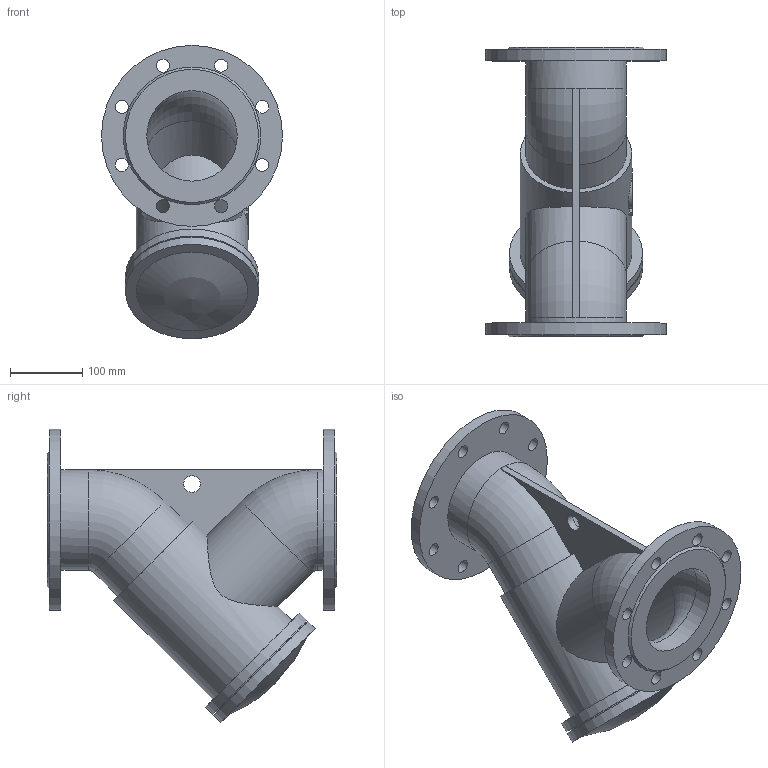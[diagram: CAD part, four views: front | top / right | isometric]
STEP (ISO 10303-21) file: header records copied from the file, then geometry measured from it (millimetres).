
FILE_DESCRIPTION(('STEP AP203'), '1');
FILE_NAME('Ôèëüòð ñåò÷àòûé ôëàíöåâûé 021Y.Z DN125 PN10_PN16', '', ('UNSPECIFIED'), ('UNSPECIFIED'), 'ASCON STEP Converter 1.6', 'ASCON Math Kernel', '');
FILE_SCHEMA(('CONFIG_CONTROL_DESIGN'));
Length unit declared in the file: millimetre
Bounding box: 250 x 400 x 405 mm (x, y, z)
Volume: 6727276.5 mm3; surface area: 625305.2 mm2
Topology: 1 solids, 1 shells, 75 faces, 171 edges, 110 vertices
Faces by surface type: cylinder 39, plane 29, torus 4, cone 2, sphere 1
Full cylindrical faces by diameter (mm): 18 x16, 23 x1, 125 x4, 139 x2, 154 x1, 172 x1, 184 x2, 250 x2
Entity records: 3660 total; most frequent: CARTESIAN_POINT 1343, DIRECTION 361, ORIENTED_EDGE 272, AXIS2_PLACEMENT_3D 160, EDGE_LOOP 155, EDGE_CURVE 136, VERTEX_POINT 109, FACE_BOUND 91
